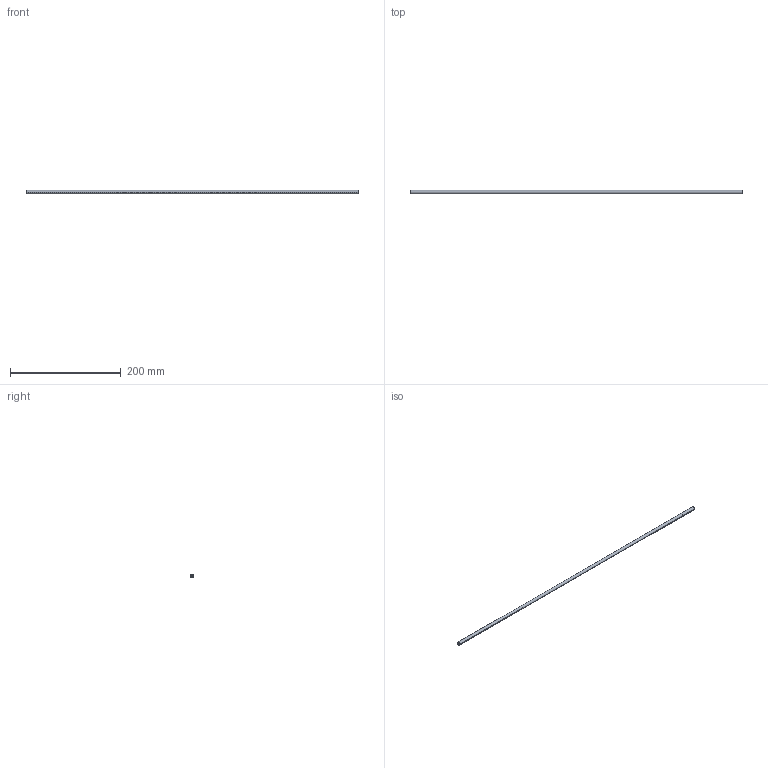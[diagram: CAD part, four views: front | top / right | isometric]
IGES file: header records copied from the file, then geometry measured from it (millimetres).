
Start section: START RECORD GO HERE.
Global section: file name: te063600.igs; native system: DASSAULT SYSTEMES CATIA V5 R20 - www.3ds.com; preprocessor: CATIA Version 5 Release 20 ; author: Utente; organization: NB04-ASUS; date: 20201107.142741; units: millimetre
Bounding box: 600 x 6 x 6 mm (x, y, z)
Surface area: 17365.2 mm2 (no closed solid volume)
Topology: 0 solids, 0 shells, 9 faces, 36 edges, 36 vertices
Faces by surface type: revolution 6, plane 3
